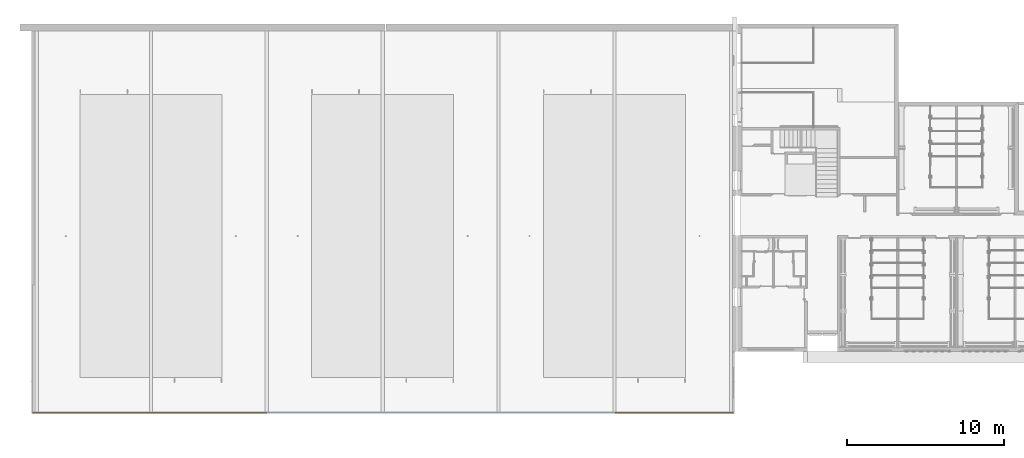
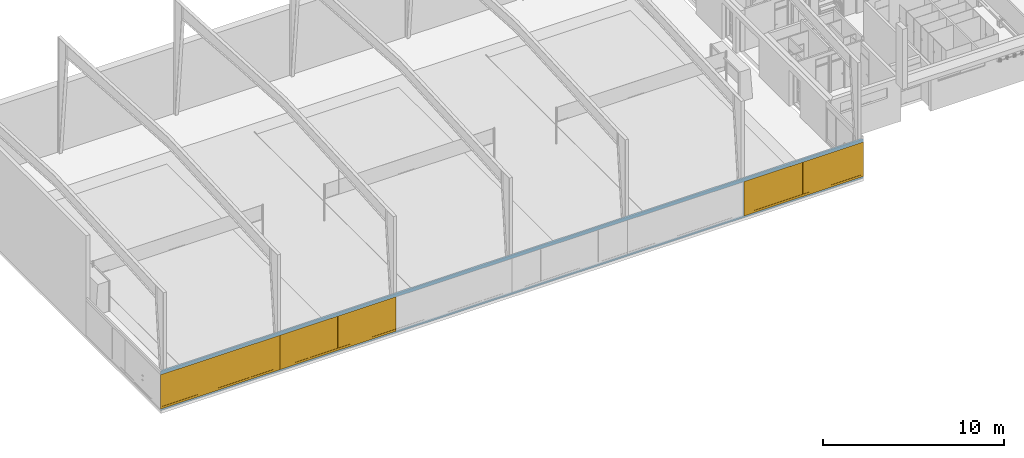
# One storey, part 32 of 45: 3 windows, 6 openings, plus 1 element that does not belong to this part.
"""IFC2X3 building model written with IfcOpenShell, lengths in metres."""

from ifc_helpers import new_model, entity, si_unit, converted_unit, money_unit, direction, frame, origin_with_axes, place, context, subcontext, project, spatial, polyline, outline, extrude, faceted_brep, material, layer, layer_set, layer_usage, type_object, element, fill, save


model = new_model("IFC2X3")

# Units and contexts
model_context = context("Model", 3, precision=1e-05, world=origin_with_axes(), true_north=direction((0.0, 1.0)))
body_context = subcontext(model_context, "Body", "Model", "MODEL_VIEW")
ifc_project = project(units=[si_unit("LENGTHUNIT", "METRE"), si_unit("AREAUNIT", "SQUARE_METRE"), si_unit("VOLUMEUNIT", "CUBIC_METRE"), converted_unit("PLANEANGLEUNIT", "DEGREE", entity("IfcPlaneAngleMeasure", 0.0174532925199), si_unit("PLANEANGLEUNIT", "RADIAN"), dimensions=[0, 0, 0, 0, 0, 0, 0]), si_unit("SOLIDANGLEUNIT", "STERADIAN"), money_unit("EUR"), converted_unit("TIMEUNIT", "Year", entity("IfcTimeMeasure", 31556926.0), si_unit("TIMEUNIT", "SECOND"), dimensions=[0, 0, 0, 0, 0, 0, 0]), si_unit("MASSUNIT", "GRAM"), si_unit("THERMODYNAMICTEMPERATUREUNIT", "DEGREE_CELSIUS"), si_unit("LUMINOUSINTENSITYUNIT", "LUMEN")], contexts=[model_context])

# Site, building, storey
site_placement = place(None, origin_with_axes())
site = spatial("IfcSite", under=ifc_project, at=site_placement, Name="Site", CompositionType="ELEMENT")
building_placement = place(site_placement, origin_with_axes())
building = spatial("IfcBuilding", under=site, at=building_placement, Name="Bâtiment", CompositionType="ELEMENT")
storey_placement = place(building_placement, origin_with_axes())
storey = spatial("IfcBuildingStorey", under=building, at=storey_placement, Name="NIVEAU BAS GYMNASE", CompositionType="ELEMENT", Elevation=0.0)

# Wall, openings, windows
ifc_material_1 = material(Name="Acier 2556372607")
ifc_layer = layer(ifc_material_1, 0.1, ventilated="UNKNOWN")
ifc_layer_set = layer_set([ifc_layer], Name="Acier 2556372607 0.1")
ifc_layer_usage = layer_usage(ifc_layer_set, "AXIS2", "POSITIVE", 0.0)
wall_type = type_object("IfcWallType", Name="Acier 2556372607 100", PredefinedType="NOTDEFINED")
wall_placement = place(storey_placement, frame((0.538618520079, 1.92911584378, 0.0), z_axis=(0.0, 0.0, 1.0), x_axis=(1.0, 0.0, 0.0)))
wall = element("IfcWallStandardCase", 1, at=wall_placement, inside=storey, type_object=wall_type, material=ifc_layer_usage, Name="Mur-002", context=body_context, shape_type="SweptSolid", body=[
    extrude(outline(polyline([(0.0, 0.0), (44.7398394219, 0.0), (44.6398394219, 0.1), (0.1, 0.1), (0.0, 0.0)])), origin_with_axes(), (0.0, 0.0, 1.0), 2.62),
])
opening_1_placement = place(wall_placement, frame((18.6716666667, 0.0, 0.1), z_axis=(0.0, 0.0, 1.0), x_axis=(1.0, 0.0, 0.0)))
element("IfcOpeningElement", 2, at=opening_1_placement, cuts=wall, Name="Fen-022", context=body_context, shape_type="SweptSolid", body=[
    extrude(outline(polyline([(3.688333, -2.32), (3.688333, 0.0), (-3.688333, 0.0), (-3.688333, -2.32), (3.688333, -2.32)])), frame((0.0, 0.0, 0.0), z_axis=(0.0, -1.0, 0.0), x_axis=(-1.0, 0.0, 0.0)), (0.0, 0.0, 1.0), 0.1),
    extrude(outline(polyline([(3.688333, 0.0), (3.688333, 2.32), (-3.688333, 2.32), (-3.688333, 0.0), (3.688333, 0.0)])), frame((0.0, 0.0, 0.0), z_axis=(0.0, 1.0, 0.0), x_axis=(-1.0, 0.0, 0.0)), (0.0, 0.0, 1.0), 0.1),
])
opening_2_placement = place(wall_placement, frame((26.0483333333, 0.0, 0.1), z_axis=(0.0, 0.0, 1.0), x_axis=(1.0, 0.0, 0.0)))
element("IfcOpeningElement", 3, at=opening_2_placement, cuts=wall, Name="Fen-022", context=body_context, shape_type="SweptSolid", body=[
    extrude(outline(polyline([(3.688333, -2.32), (3.688333, 0.0), (-3.688333, 0.0), (-3.688333, -2.32), (3.688333, -2.32)])), frame((0.0, 0.0, 0.0), z_axis=(0.0, -1.0, 0.0), x_axis=(-1.0, 0.0, 0.0)), (0.0, 0.0, 1.0), 0.1),
    extrude(outline(polyline([(3.688333, 0.0), (3.688333, 2.32), (-3.688333, 2.32), (-3.688333, 0.0), (3.688333, 0.0)])), frame((0.0, 0.0, 0.0), z_axis=(0.0, 1.0, 0.0), x_axis=(-1.0, 0.0, 0.0)), (0.0, 0.0, 1.0), 0.1),
])
opening_3_placement = place(wall_placement, frame((33.425, 0.0, 0.1), z_axis=(0.0, 0.0, 1.0), x_axis=(1.0, 0.0, 0.0)))
element("IfcOpeningElement", 4, at=opening_3_placement, cuts=wall, Name="Fen-023", context=body_context, shape_type="SweptSolid", body=[
    extrude(outline(polyline([(3.688333, -2.32), (3.688333, 0.0), (-3.688333, 0.0), (-3.688333, -2.32), (3.688333, -2.32)])), frame((0.0, 0.0, 0.0), z_axis=(0.0, -1.0, 0.0), x_axis=(-1.0, 0.0, 0.0)), (0.0, 0.0, 1.0), 0.1),
    extrude(outline(polyline([(3.688333, 0.0), (3.688333, 2.32), (-3.688333, 2.32), (-3.688333, 0.0), (3.688333, 0.0)])), frame((0.0, 0.0, 0.0), z_axis=(0.0, 1.0, 0.0), x_axis=(-1.0, 0.0, 0.0)), (0.0, 0.0, 1.0), 0.1),
])
opening_4_placement = place(wall_placement, frame((11.295, 0.0, 0.1), z_axis=(0.0, 0.0, 1.0), x_axis=(1.0, 0.0, 0.0)))
opening_4 = element("IfcOpeningElement", 5, at=opening_4_placement, cuts=wall, Name="Fen-022", context=body_context, shape_type="SweptSolid", body=[
    extrude(outline(polyline([(3.688333, -2.32), (3.688333, 0.0), (-3.688333, 0.0), (-3.688333, -2.32), (3.688333, -2.32)])), frame((0.0, 0.0, 0.0), z_axis=(0.0, -1.0, 0.0), x_axis=(-1.0, 0.0, 0.0)), (0.0, 0.0, 1.0), 0.1),
    extrude(outline(polyline([(3.688333, 0.0), (3.688333, 2.32), (-3.688333, 2.32), (-3.688333, 0.0), (3.688333, 0.0)])), frame((0.0, 0.0, 0.0), z_axis=(0.0, 1.0, 0.0), x_axis=(-1.0, 0.0, 0.0)), (0.0, 0.0, 1.0), 0.1),
])
opening_5_placement = place(wall_placement, frame((3.80333333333, 0.0, 0.1), z_axis=(0.0, 0.0, 1.0), x_axis=(1.0, 0.0, 0.0)))
opening_5 = element("IfcOpeningElement", 6, at=opening_5_placement, cuts=wall, Name="Fen-023", context=body_context, shape_type="SweptSolid", body=[
    extrude(outline(polyline([(3.803333, -2.32), (3.803333, 0.0), (-3.803333, 0.0), (-3.803333, -2.32), (3.803333, -2.32)])), frame((0.0, 0.0, 0.0), z_axis=(0.0, -1.0, 0.0), x_axis=(-1.0, 0.0, 0.0)), (0.0, 0.0, 1.0), 0.1),
    extrude(outline(polyline([(3.803333, 0.0), (3.803333, 2.32), (-3.803333, 2.32), (-3.803333, 0.0), (3.803333, 0.0)])), frame((0.0, 0.0, 0.0), z_axis=(0.0, 1.0, 0.0), x_axis=(-1.0, 0.0, 0.0)), (0.0, 0.0, 1.0), 0.1),
])
opening_6_placement = place(wall_placement, frame((40.9365060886, 0.0, 0.1), z_axis=(0.0, 0.0, 1.0), x_axis=(1.0, 0.0, 0.0)))
opening_6 = element("IfcOpeningElement", 7, at=opening_6_placement, cuts=wall, Name="Fen-025", context=body_context, shape_type="SweptSolid", body=[
    extrude(outline(polyline([(3.803333, -2.32), (3.803333, 0.0), (-3.803333, 0.0), (-3.803333, -2.32), (3.803333, -2.32)])), frame((0.0, 0.0, 0.0), z_axis=(0.0, -1.0, 0.0), x_axis=(-1.0, 0.0, 0.0)), (0.0, 0.0, 1.0), 0.1),
    extrude(outline(polyline([(3.803333, 0.0), (3.803333, 2.32), (-3.803333, 2.32), (-3.803333, 0.0), (3.803333, 0.0)])), frame((0.0, 0.0, 0.0), z_axis=(0.0, 1.0, 0.0), x_axis=(-1.0, 0.0, 0.0)), (0.0, 0.0, 1.0), 0.1),
])
ifc_material_2 = material(Name="Sans Trame")
window_style = type_object("IfcWindowStyle", Name="F Devanture 3 10", ConstructionType="NOTDEFINED", OperationType="USERDEFINED", ParameterTakesPrecedence=False, Sizeable=False)
window_1_placement = place(opening_4_placement, frame((3.68833333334, 0.0, 0.0), z_axis=(0.0, 0.0, 1.0), x_axis=(-1.0, 0.0, 0.0)))
window_1 = element("IfcWindow", 8, at=window_1_placement, inside=storey, type_object=window_style, material=ifc_material_2, Name="Fen-022", OverallHeight=2.32, OverallWidth=7.37667, context=body_context, shape_type="Brep", body=[
    faceted_brep([(7.37666700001, 0.0, 2.28), (7.37666700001, -0.08, 2.28), (7.37666700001, -0.08, 0.15), (7.37666700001, 0.0, 0.15), (7.35666700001, 0.0, 2.28), (7.35666700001, -0.08, 2.28), (7.35666700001, -0.08, 0.15), (7.35666700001, 0.0, 0.15)], [[[0, 1, 2, 3]], [[4, 5, 1, 0]], [[1, 5, 6, 2]], [[3, 2, 6, 7]], [[0, 3, 7, 4]], [[7, 6, 5, 4]]]),
    faceted_brep([(0.0, 0.0, 0.15), (0.0, -0.08, 0.15), (0.0, -0.08, 2.28), (0.0, 0.0, 2.28), (0.020000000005, 0.0, 0.15), (0.020000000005, -0.08, 0.15), (0.020000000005, -0.08, 2.28), (0.020000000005, 0.0, 2.28)], [[[0, 1, 2, 3]], [[4, 5, 1, 0]], [[1, 5, 6, 2]], [[3, 2, 6, 7]], [[0, 3, 7, 4]], [[7, 6, 5, 4]]]),
    faceted_brep([(0.0, 0.0, 2.32), (0.0, -0.08, 2.32), (7.37666700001, -0.08, 2.32), (7.37666700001, 0.0, 2.32), (0.0, 0.0, 2.28), (0.0, -0.08, 2.28), (0.020000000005, -0.08, 2.28), (7.35666700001, -0.08, 2.28), (7.37666700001, -0.08, 2.28), (7.37666700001, 0.0, 2.28), (7.35666700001, 0.0, 2.28), (0.020000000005, 0.0, 2.28)], [[[0, 1, 2, 3]], [[4, 5, 1, 0]], [[1, 5, 6, 7, 8, 2]], [[3, 2, 8, 9]], [[0, 3, 9, 10, 11, 4]], [[11, 6, 5, 4]], [[10, 7, 6, 11]], [[9, 8, 7, 10]]]),
    faceted_brep([(0.0, 0.0, 0.15), (0.0, -0.08, 0.15), (0.020000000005, -0.08, 0.15), (0.020000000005, 0.0, 0.15), (0.0, 0.0, 0.0), (0.0, -0.08, 0.0), (7.37666700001, -0.08, 0.0), (7.37666700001, -0.08, 0.15), (7.35666700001, -0.08, 0.15), (7.35666700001, 0.0, 0.15), (7.37666700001, 0.0, 0.15), (7.37666700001, 0.0, 0.0)], [[[0, 1, 2, 3]], [[4, 5, 1, 0]], [[1, 5, 6, 7, 8, 2]], [[3, 2, 8, 9]], [[0, 3, 9, 10, 11, 4]], [[11, 6, 5, 4]], [[10, 7, 6, 11]], [[9, 8, 7, 10]]]),
    faceted_brep([(1.86166700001, -0.05, 0.15), (1.831667, -0.05, 0.15), (1.831667, 0.0, 0.15), (1.86166700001, 0.0, 0.15), (1.86166700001, -0.05, 2.28), (1.831667, -0.05, 2.28), (1.831667, 0.0, 2.28), (1.86166700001, 0.0, 2.28)], [[[0, 1, 2, 3]], [[4, 5, 1, 0]], [[1, 5, 6, 2]], [[2, 6, 7, 3]], [[4, 0, 3, 7]], [[5, 4, 7, 6]]]),
    faceted_brep([(5.54500000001, -0.05, 0.15), (5.51500000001, -0.05, 0.15), (5.51500000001, 0.0, 0.15), (5.54500000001, 0.0, 0.15), (5.54500000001, -0.05, 2.28), (5.51500000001, -0.05, 2.28), (5.51500000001, 0.0, 2.28), (5.54500000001, 0.0, 2.28)], [[[0, 1, 2, 3]], [[4, 5, 1, 0]], [[1, 5, 6, 2]], [[2, 6, 7, 3]], [[4, 0, 3, 7]], [[5, 4, 7, 6]]]),
    faceted_brep([(3.703333, -0.05, 0.15), (3.67333300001, -0.05, 0.15), (3.67333300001, 0.0, 0.15), (3.70333300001, 0.0, 0.15), (3.703333, -0.05, 2.28), (3.67333300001, -0.05, 2.28), (3.67333300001, 0.0, 2.28), (3.70333300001, 0.0, 2.28)], [[[0, 1, 2, 3]], [[4, 5, 1, 0]], [[1, 5, 6, 2]], [[2, 6, 7, 3]], [[4, 0, 3, 7]], [[5, 4, 7, 6]]]),
    faceted_brep([(7.35666700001, -0.01, 0.15), (7.35666700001, -0.02, 0.15), (5.54500000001, -0.02, 0.15), (5.54500000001, -0.01, 0.15), (7.35666700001, -0.01, 2.28), (7.35666700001, -0.02, 2.28), (5.54500000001, -0.02, 2.28), (5.54500000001, -0.01, 2.28)], [[[0, 1, 2, 3]], [[4, 5, 1, 0]], [[1, 5, 6, 2]], [[3, 2, 6, 7]], [[0, 3, 7, 4]], [[7, 6, 5, 4]]]),
    faceted_brep([(5.51500000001, -0.01, 0.15), (5.51500000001, -0.02, 0.15), (3.703333, -0.02, 0.15), (3.703333, -0.01, 0.15), (5.51500000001, -0.01, 2.28), (5.51500000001, -0.02, 2.28), (3.703333, -0.02, 2.28), (3.703333, -0.01, 2.28)], [[[0, 1, 2, 3]], [[4, 5, 1, 0]], [[1, 5, 6, 2]], [[3, 2, 6, 7]], [[0, 3, 7, 4]], [[7, 6, 5, 4]]]),
    faceted_brep([(3.67333300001, -0.01, 0.15), (3.67333300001, -0.02, 0.15), (1.86166700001, -0.02, 0.15), (1.86166700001, -0.01, 0.15), (3.67333300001, -0.01, 2.28), (3.67333300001, -0.02, 2.28), (1.86166700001, -0.02, 2.28), (1.86166700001, -0.01, 2.28)], [[[0, 1, 2, 3]], [[4, 5, 1, 0]], [[1, 5, 6, 2]], [[3, 2, 6, 7]], [[0, 3, 7, 4]], [[7, 6, 5, 4]]]),
    faceted_brep([(1.831667, -0.01, 0.15), (1.831667, -0.02, 0.15), (0.020000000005, -0.02, 0.15), (0.020000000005, -0.01, 0.15), (1.831667, -0.01, 2.28), (1.831667, -0.02, 2.28), (0.020000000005, -0.02, 2.28), (0.020000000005, -0.01, 2.28)], [[[0, 1, 2, 3]], [[4, 5, 1, 0]], [[1, 5, 6, 2]], [[3, 2, 6, 7]], [[0, 3, 7, 4]], [[7, 6, 5, 4]]]),
])
fill(opening_4, window_1)
window_2_placement = place(opening_5_placement, frame((3.80333333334, 0.0, 0.0), z_axis=(0.0, 0.0, 1.0), x_axis=(-1.0, 0.0, 0.0)))
window_2 = element("IfcWindow", 9, at=window_2_placement, inside=storey, type_object=window_style, material=ifc_material_2, Name="Fen-023", OverallHeight=2.32, OverallWidth=7.60667, context=body_context, shape_type="Brep", body=[
    faceted_brep([(7.60666700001, 0.0, 2.28), (7.60666700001, 0.0, 2.28), (7.60666700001, 0.0, 0.15), (7.60666700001, 0.0, 0.15), (7.48666700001, 0.0, 2.28), (7.48666700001, -0.08, 2.28), (7.52666700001, -0.08, 2.28), (7.52666700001, -0.08, 0.15), (7.48666700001, -0.08, 0.15), (7.48666700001, 0.0, 0.15)], [[[0, 1, 2, 3]], [[4, 5, 6, 1, 0]], [[7, 2, 1, 6]], [[3, 2, 7, 8, 9]], [[0, 3, 9, 4]], [[9, 8, 5, 4]], [[7, 6, 5, 8]]]),
    faceted_brep([(0.0, 0.0, 0.15), (0.0, -0.08, 0.15), (0.0, -0.08, 2.28), (0.0, 0.0, 2.28), (0.040000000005, 0.0, 0.15), (0.040000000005, -0.08, 0.15), (0.040000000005, -0.08, 2.28), (0.040000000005, 0.0, 2.28)], [[[0, 1, 2, 3]], [[4, 5, 1, 0]], [[1, 5, 6, 2]], [[3, 2, 6, 7]], [[0, 3, 7, 4]], [[7, 6, 5, 4]]]),
    faceted_brep([(0.0, 0.0, 2.32), (0.0, -0.08, 2.32), (7.52666700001, -0.08, 2.32), (7.60666700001, 0.0, 2.32), (7.60666700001, 0.0, 2.32), (0.0, 0.0, 2.28), (0.0, -0.08, 2.28), (0.040000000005, -0.08, 2.28), (7.48666700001, -0.08, 2.28), (7.52666700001, -0.08, 2.28), (7.60666700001, 0.0, 2.28), (7.60666700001, 0.0, 2.28), (7.48666700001, 0.0, 2.28), (0.040000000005, 0.0, 2.28)], [[[0, 1, 2, 3, 4]], [[5, 6, 1, 0]], [[1, 6, 7, 8, 9, 2]], [[2, 9, 10, 3]], [[4, 3, 10, 11]], [[0, 4, 11, 12, 13, 5]], [[13, 7, 6, 5]], [[12, 8, 7, 13]], [[11, 10, 9, 8, 12]]]),
    faceted_brep([(0.0, 0.0, 0.15), (0.0, -0.08, 0.15), (0.040000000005, -0.08, 0.15), (0.040000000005, 0.0, 0.15), (0.0, 0.0, 0.0), (0.0, -0.08, 0.0), (7.52666700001, -0.08, 0.0), (7.52666700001, -0.08, 0.15), (7.48666700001, -0.08, 0.15), (7.48666700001, 0.0, 0.15), (7.60666700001, 0.0, 0.15), (7.60666700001, 0.0, 0.0), (7.60666700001, 0.0, 0.0), (7.60666700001, 0.0, 0.15)], [[[0, 1, 2, 3]], [[4, 5, 1, 0]], [[1, 5, 6, 7, 8, 2]], [[3, 2, 8, 9]], [[0, 3, 9, 10, 11, 4]], [[11, 12, 6, 5, 4]], [[7, 6, 12, 13]], [[9, 8, 7, 13, 10]], [[10, 13, 12, 11]]]),
    faceted_brep([(1.90916700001, -0.05, 0.15), (1.87916700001, -0.05, 0.15), (1.87916700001, 0.0, 0.15), (1.90916700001, 0.0, 0.15), (1.90916700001, -0.05, 2.28), (1.87916700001, -0.05, 2.28), (1.87916700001, 0.0, 2.28), (1.90916700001, 0.0, 2.28)], [[[0, 1, 2, 3]], [[4, 5, 1, 0]], [[1, 5, 6, 2]], [[2, 6, 7, 3]], [[4, 0, 3, 7]], [[5, 4, 7, 6]]]),
    faceted_brep([(5.64750000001, -0.05, 0.15), (5.61750000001, -0.05, 0.15), (5.61750000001, 0.0, 0.15), (5.64750000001, 0.0, 0.15), (5.64750000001, -0.05, 2.28), (5.61750000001, -0.05, 2.28), (5.61750000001, 0.0, 2.28), (5.64750000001, 0.0, 2.28)], [[[0, 1, 2, 3]], [[4, 5, 1, 0]], [[1, 5, 6, 2]], [[2, 6, 7, 3]], [[4, 0, 3, 7]], [[5, 4, 7, 6]]]),
    faceted_brep([(3.77833300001, -0.05, 0.15), (3.74833300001, -0.05, 0.15), (3.74833300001, 0.0, 0.15), (3.77833300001, 0.0, 0.15), (3.77833300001, -0.05, 2.28), (3.74833300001, -0.05, 2.28), (3.74833300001, 0.0, 2.28), (3.77833300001, 0.0, 2.28)], [[[0, 1, 2, 3]], [[4, 5, 1, 0]], [[1, 5, 6, 2]], [[2, 6, 7, 3]], [[4, 0, 3, 7]], [[5, 4, 7, 6]]]),
    faceted_brep([(7.48666700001, -0.01, 0.15), (7.48666700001, -0.02, 0.15), (5.64750000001, -0.02, 0.15), (5.64750000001, -0.01, 0.15), (7.48666700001, -0.01, 2.28), (7.48666700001, -0.02, 2.28), (5.64750000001, -0.02, 2.28), (5.64750000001, -0.01, 2.28)], [[[0, 1, 2, 3]], [[4, 5, 1, 0]], [[1, 5, 6, 2]], [[3, 2, 6, 7]], [[0, 3, 7, 4]], [[7, 6, 5, 4]]]),
    faceted_brep([(5.61750000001, -0.01, 0.15), (5.61750000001, -0.02, 0.15), (3.77833300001, -0.02, 0.15), (3.77833300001, -0.01, 0.15), (5.61750000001, -0.01, 2.28), (5.61750000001, -0.02, 2.28), (3.77833300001, -0.02, 2.28), (3.77833300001, -0.01, 2.28)], [[[0, 1, 2, 3]], [[4, 5, 1, 0]], [[1, 5, 6, 2]], [[3, 2, 6, 7]], [[0, 3, 7, 4]], [[7, 6, 5, 4]]]),
    faceted_brep([(3.74833300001, -0.01, 0.15), (3.74833300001, -0.02, 0.15), (1.90916700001, -0.02, 0.15), (1.90916700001, -0.01, 0.15), (3.74833300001, -0.01, 2.28), (3.74833300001, -0.02, 2.28), (1.90916700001, -0.02, 2.28), (1.90916700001, -0.01, 2.28)], [[[0, 1, 2, 3]], [[4, 5, 1, 0]], [[1, 5, 6, 2]], [[3, 2, 6, 7]], [[0, 3, 7, 4]], [[7, 6, 5, 4]]]),
    faceted_brep([(1.87916700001, -0.01, 0.15), (1.87916700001, -0.02, 0.15), (0.040000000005, -0.02, 0.15), (0.040000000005, -0.01, 0.15), (1.87916700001, -0.01, 2.28), (1.87916700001, -0.02, 2.28), (0.040000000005, -0.02, 2.28), (0.040000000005, -0.01, 2.28)], [[[0, 1, 2, 3]], [[4, 5, 1, 0]], [[1, 5, 6, 2]], [[3, 2, 6, 7]], [[0, 3, 7, 4]], [[7, 6, 5, 4]]]),
])
fill(opening_5, window_2)
window_3_placement = place(opening_6_placement, frame((3.80333333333, 0.0, 0.0), z_axis=(0.0, 0.0, 1.0), x_axis=(-1.0, 0.0, 0.0)))
window_3 = element("IfcWindow", 10, at=window_3_placement, inside=storey, type_object=window_style, material=ifc_material_2, Name="Fen-025", OverallHeight=2.32, OverallWidth=7.60667, context=body_context, shape_type="Brep", body=[
    faceted_brep([(0.0, 0.0, 2.28), (0.0, 0.0, 0.15), (0.0, 0.0, 0.15), (0.0, 0.0, 2.28), (0.120000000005, 0.0, 2.28), (0.120000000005, 0.0, 0.15), (0.120000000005, -0.08, 0.15), (0.080000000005, -0.08, 0.15), (0.080000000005, -0.08, 2.28), (0.120000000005, -0.08, 2.28)], [[[0, 1, 2, 3]], [[0, 4, 5, 1]], [[1, 5, 6, 7, 2]], [[7, 8, 3, 2]], [[4, 0, 3, 8, 9]], [[5, 4, 9, 6]], [[7, 6, 9, 8]]]),
    faceted_brep([(7.606667, 0.0, 0.15), (7.606667, 0.0, 2.28), (7.606667, -0.08, 2.28), (7.606667, -0.08, 0.15), (7.566667, 0.0, 0.15), (7.566667, 0.0, 2.28), (7.566667, -0.08, 2.28), (7.566667, -0.08, 0.15)], [[[0, 1, 2, 3]], [[0, 4, 5, 1]], [[1, 5, 6, 2]], [[3, 2, 6, 7]], [[4, 0, 3, 7]], [[5, 4, 7, 6]]]),
    faceted_brep([(7.606667, 0.0, 2.32), (0.0, 0.0, 2.32), (0.0, 0.0, 2.32), (0.080000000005, -0.08, 2.32), (7.606667, -0.08, 2.32), (7.606667, 0.0, 2.28), (7.566667, 0.0, 2.28), (0.120000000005, 0.0, 2.28), (0.0, 0.0, 2.28), (0.0, 0.0, 2.28), (0.080000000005, -0.08, 2.28), (0.120000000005, -0.08, 2.28), (7.566667, -0.08, 2.28), (7.606667, -0.08, 2.28)], [[[0, 1, 2, 3, 4]], [[0, 5, 6, 7, 8, 1]], [[1, 8, 9, 2]], [[3, 2, 9, 10]], [[4, 3, 10, 11, 12, 13]], [[5, 0, 4, 13]], [[6, 5, 13, 12]], [[7, 6, 12, 11]], [[8, 7, 11, 10, 9]]]),
    faceted_brep([(7.606667, 0.0, 0.15), (7.566667, 0.0, 0.15), (7.566667, -0.08, 0.15), (7.606667, -0.08, 0.15), (7.606667, 0.0, 0.0), (0.0, 0.0, 0.0), (0.0, 0.0, 0.15), (0.120000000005, 0.0, 0.15), (0.120000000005, -0.08, 0.15), (0.080000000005, -0.08, 0.15), (0.080000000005, -0.08, 0.0), (7.606667, -0.08, 0.0), (0.0, 0.0, 0.0), (0.0, 0.0, 0.15)], [[[0, 1, 2, 3]], [[0, 4, 5, 6, 7, 1]], [[1, 7, 8, 2]], [[3, 2, 8, 9, 10, 11]], [[4, 0, 3, 11]], [[5, 4, 11, 10, 12]], [[6, 5, 12, 13]], [[7, 6, 13, 9, 8]], [[9, 13, 12, 10]]]),
    faceted_brep([(5.6975, -0.05, 0.15), (5.6975, 0.0, 0.15), (5.7275, 0.0, 0.15), (5.7275, -0.05, 0.15), (5.6975, -0.05, 2.28), (5.6975, 0.0, 2.28), (5.7275, 0.0, 2.28), (5.7275, -0.05, 2.28)], [[[0, 1, 2, 3]], [[4, 5, 1, 0]], [[2, 1, 5, 6]], [[3, 2, 6, 7]], [[4, 0, 3, 7]], [[7, 6, 5, 4]]]),
    faceted_brep([(1.959167, -0.05, 0.15), (1.959167, 0.0, 0.15), (1.989167, 0.0, 0.15), (1.989167, -0.05, 0.15), (1.959167, -0.05, 2.28), (1.959167, 0.0, 2.28), (1.989167, 0.0, 2.28), (1.989167, -0.05, 2.28)], [[[0, 1, 2, 3]], [[4, 5, 1, 0]], [[2, 1, 5, 6]], [[3, 2, 6, 7]], [[4, 0, 3, 7]], [[7, 6, 5, 4]]]),
    faceted_brep([(3.828333, -0.05, 0.15), (3.828333, 0.0, 0.15), (3.858333, 0.0, 0.15), (3.858333, -0.05, 0.15), (3.828333, -0.05, 2.28), (3.828333, 0.0, 2.28), (3.858333, 0.0, 2.28), (3.858333, -0.05, 2.28)], [[[0, 1, 2, 3]], [[4, 5, 1, 0]], [[2, 1, 5, 6]], [[3, 2, 6, 7]], [[4, 0, 3, 7]], [[7, 6, 5, 4]]]),
    faceted_brep([(0.120000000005, -0.01, 0.15), (1.959167, -0.01, 0.15), (1.959167, -0.02, 0.15), (0.120000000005, -0.02, 0.15), (0.120000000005, -0.01, 2.28), (1.959167, -0.01, 2.28), (1.959167, -0.02, 2.28), (0.120000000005, -0.02, 2.28)], [[[0, 1, 2, 3]], [[0, 4, 5, 1]], [[1, 5, 6, 2]], [[3, 2, 6, 7]], [[4, 0, 3, 7]], [[5, 4, 7, 6]]]),
    faceted_brep([(1.989167, -0.01, 0.15), (3.828333, -0.01, 0.15), (3.828333, -0.02, 0.15), (1.989167, -0.02, 0.15), (1.989167, -0.01, 2.28), (3.828333, -0.01, 2.28), (3.828333, -0.02, 2.28), (1.989167, -0.02, 2.28)], [[[0, 1, 2, 3]], [[0, 4, 5, 1]], [[1, 5, 6, 2]], [[3, 2, 6, 7]], [[4, 0, 3, 7]], [[5, 4, 7, 6]]]),
    faceted_brep([(3.858333, -0.01, 0.15), (5.6975, -0.01, 0.15), (5.6975, -0.02, 0.15), (3.858333, -0.02, 0.15), (3.858333, -0.01, 2.28), (5.6975, -0.01, 2.28), (5.6975, -0.02, 2.28), (3.858333, -0.02, 2.28)], [[[0, 1, 2, 3]], [[0, 4, 5, 1]], [[1, 5, 6, 2]], [[3, 2, 6, 7]], [[4, 0, 3, 7]], [[5, 4, 7, 6]]]),
    faceted_brep([(5.7275, -0.01, 0.15), (7.566667, -0.01, 0.15), (7.566667, -0.02, 0.15), (5.7275, -0.02, 0.15), (5.7275, -0.01, 2.28), (7.566667, -0.01, 2.28), (7.566667, -0.02, 2.28), (5.7275, -0.02, 2.28)], [[[0, 1, 2, 3]], [[0, 4, 5, 1]], [[1, 5, 6, 2]], [[3, 2, 6, 7]], [[4, 0, 3, 7]], [[5, 4, 7, 6]]]),
])
fill(opening_6, window_3)

save(model, "model.ifc")
